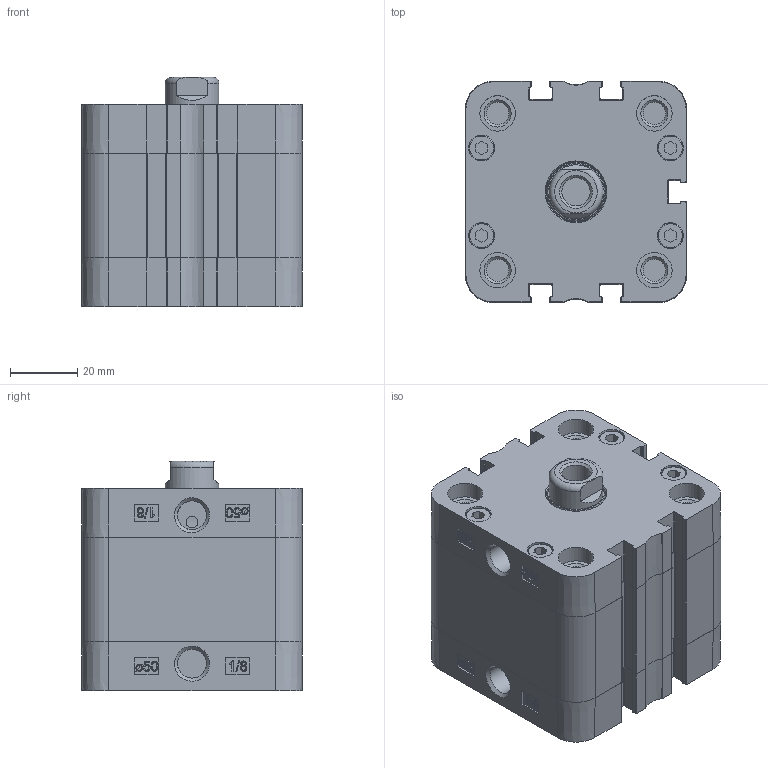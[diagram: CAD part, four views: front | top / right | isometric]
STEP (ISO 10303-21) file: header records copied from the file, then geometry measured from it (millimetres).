
FILE_DESCRIPTION(/* description */ ('Unknown'),/* implementation_level */ '2;1');
FILE_NAME(/* name */ 'ZIN 50_15',/* time_stamp */ '2024-11-12T08:13:11+01:00',/* author */ ('Unknown'),/* organization */ ('HAFNER Pneumatika Kft.'),/* preprocessor_version */ 'ST-DEVELOPER v18.102',/* originating_system */ 'Solid Edge',/* authorisation */ 'Unknown');
FILE_SCHEMA (('AUTOMOTIVE_DESIGN {1 0 10303 214 3 1 1}'));
Length unit declared in the file: millimetre
Products named in the file (5): ZIN 50_15; Profilrohr; Kolbenstange; Kit_2; Kit_1
Assembly tree (4 placements, depth 2):
  ZIN 50_15
    Profilrohr
    Kolbenstange
    Kit_2
    Kit_1
Bounding box: 65.5 x 65.5 x 68 mm (x, y, z)
Volume: 209566.4 mm3; surface area: 58806.6 mm2
Topology: 4 solids, 12 shells, 731 faces, 1898 edges, 1250 vertices
Faces by surface type: plane 336, cylinder 212, bspline 108, torus 43, cone 32
Full cylindrical faces by diameter (mm): 3.5 x1, 5.2 x8, 6.647 x8, 7.5 x8, 7.7 x8, 8.376 x2, 8.566 x2, 10.5 x8, 12 x1, 16 x1, 16.54 x1, 17.7 x1, 18 x1, 20.5 x1, 50 x2
Entity records: 27380 total; most frequent: CARTESIAN_POINT 5777, ORIENTED_EDGE 3548, DIRECTION 3270, EDGE_CURVE 1774, VERTEX_POINT 1220, AXIS2_PLACEMENT_3D 1127, LINE 1016, VECTOR 1016
